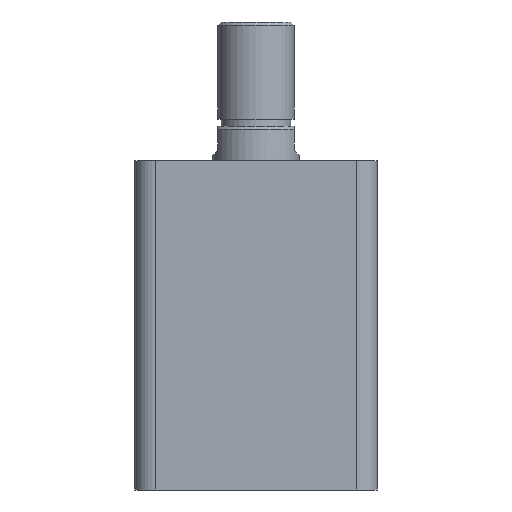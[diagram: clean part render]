
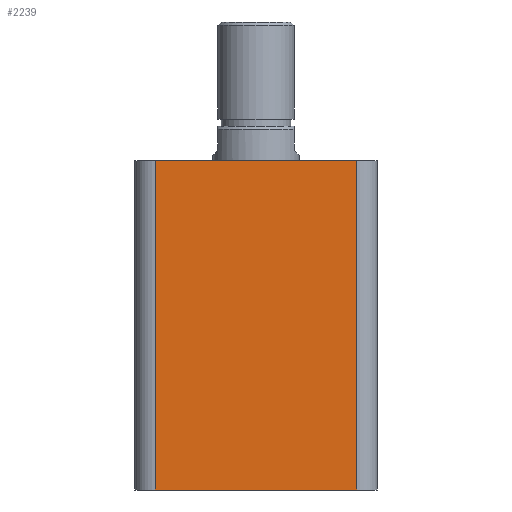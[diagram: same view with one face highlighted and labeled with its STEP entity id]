
A CAD part, front view. The second image highlights one B-rep face of the part: STEP entity #2239.
In plain terms, the highlighted planar face has unit normal (0, -1, 0).
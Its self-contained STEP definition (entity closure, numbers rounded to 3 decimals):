
#103 = EDGE_LOOP ( 'NONE', ( #1511, #1588, #1591, #1493 ) ) ;
#338 = VERTEX_POINT ( 'NONE', #1757 ) ;
#349 = VERTEX_POINT ( 'NONE', #1740 ) ;
#354 = VERTEX_POINT ( 'NONE', #1736 ) ;
#407 = VERTEX_POINT ( 'NONE', #1805 ) ;
#637 = DIRECTION ( 'NONE',  ( 1., 0., 0. ) ) ;
#644 = CARTESIAN_POINT ( 'NONE',  ( -35., -35., 95. ) ) ;
#666 = DIRECTION ( 'NONE',  ( 0., 0., -1. ) ) ;
#667 = CARTESIAN_POINT ( 'NONE',  ( -29., -35., 95. ) ) ;
#868 = DIRECTION ( 'NONE',  ( 1., 0., 0. ) ) ;
#869 = CARTESIAN_POINT ( 'NONE',  ( -35., -35., 0. ) ) ;
#943 = EDGE_CURVE ( 'NONE', #349, #407, #1431, .T. ) ;
#1157 = LINE ( 'NONE', #869, #2459 ) ;
#1428 = VECTOR ( 'NONE', #2132, 1000. ) ;
#1431 = LINE ( 'NONE', #2109, #1428 ) ;
#1493 = ORIENTED_EDGE ( 'NONE', *, *, #943, .T. ) ;
#1511 = ORIENTED_EDGE ( 'NONE', *, *, #1926, .F. ) ;
#1588 = ORIENTED_EDGE ( 'NONE', *, *, #1923, .T. ) ;
#1591 = ORIENTED_EDGE ( 'NONE', *, *, #1872, .T. ) ;
#1736 = CARTESIAN_POINT ( 'NONE',  ( -29., -35., 0. ) ) ;
#1740 = CARTESIAN_POINT ( 'NONE',  ( 29., -35., 0. ) ) ;
#1757 = CARTESIAN_POINT ( 'NONE',  ( -29., -35., 95. ) ) ;
#1805 = CARTESIAN_POINT ( 'NONE',  ( 29., -35., 95. ) ) ;
#1852 = AXIS2_PLACEMENT_3D ( 'NONE', #2624, #2618, #2617 ) ;
#1872 = EDGE_CURVE ( 'NONE', #354, #349, #1157, .T. ) ;
#1923 = EDGE_CURVE ( 'NONE', #338, #354, #2380, .T. ) ;
#1926 = EDGE_CURVE ( 'NONE', #338, #407, #2386, .T. ) ;
#2109 = CARTESIAN_POINT ( 'NONE',  ( 29., -35., 95. ) ) ;
#2132 = DIRECTION ( 'NONE',  ( 0., 0., 1. ) ) ;
#2239 = ADVANCED_FACE ( 'NONE', ( #2304 ), #2620, .F. ) ;
#2304 = FACE_OUTER_BOUND ( 'NONE', #103, .T. ) ;
#2373 = VECTOR ( 'NONE', #637, 1000. ) ;
#2378 = VECTOR ( 'NONE', #666, 1000. ) ;
#2380 = LINE ( 'NONE', #667, #2378 ) ;
#2386 = LINE ( 'NONE', #644, #2373 ) ;
#2459 = VECTOR ( 'NONE', #868, 1000. ) ;
#2617 = DIRECTION ( 'NONE',  ( 0., 0., 1. ) ) ;
#2618 = DIRECTION ( 'NONE',  ( 0., 1., 0. ) ) ;
#2620 = PLANE ( 'NONE',  #1852 ) ;
#2624 = CARTESIAN_POINT ( 'NONE',  ( -35., -35., 95. ) ) ;
